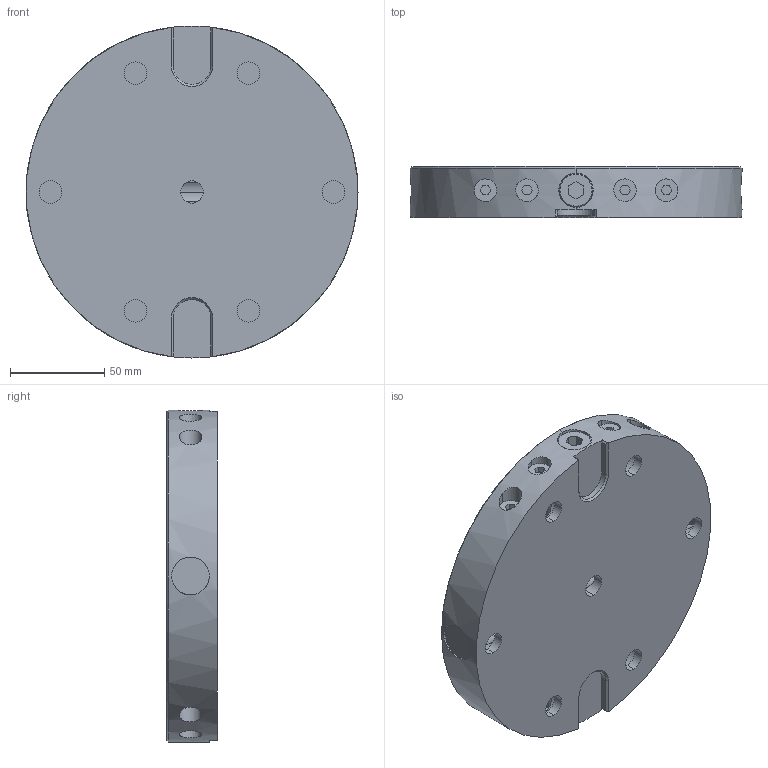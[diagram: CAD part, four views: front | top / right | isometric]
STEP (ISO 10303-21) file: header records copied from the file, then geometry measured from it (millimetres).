
FILE_DESCRIPTION (( 'STEP AP214' ), '1' );
FILE_NAME ('45480.STEP', '2022-06-30T09:24:19', ( '' ), ( '' ), 'SwSTEP 2.0', 'SolidWorks 2021', '' );
FILE_SCHEMA (( 'AUTOMOTIVE_DESIGN' ));
Length unit declared in the file: millimetre
Products named in the file (1): 45480
Bounding box: 176 x 27 x 176 mm (x, y, z)
Volume: 483815.2 mm3; surface area: 112856.5 mm2
Topology: 18 solids, 18 shells, 385 faces, 890 edges, 551 vertices
Faces by surface type: cylinder 156, plane 140, cone 57, torus 32
Entity records: 19554 total; most frequent: CARTESIAN_POINT 6243, DIRECTION 1873, ORIENTED_EDGE 1780, EDGE_CURVE 890, AXIS2_PLACEMENT_3D 720, VERTEX_POINT 551, EDGE_LOOP 457, VECTOR 433
